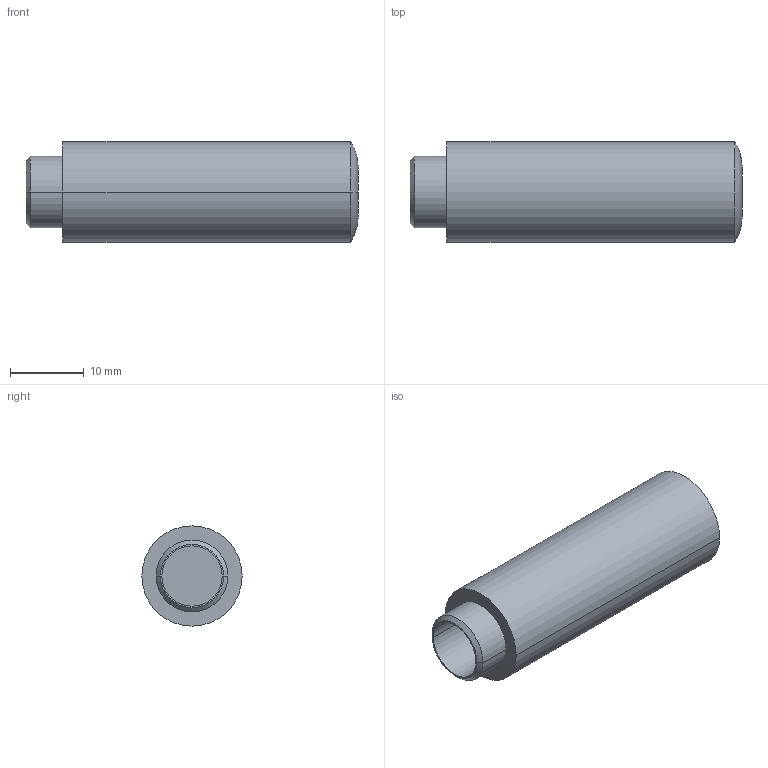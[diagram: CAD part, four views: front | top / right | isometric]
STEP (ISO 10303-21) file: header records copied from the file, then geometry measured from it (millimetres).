
FILE_DESCRIPTION((''),'2;1');
FILE_NAME('R412007593','2015-04-27T',('mla1hc'),(''),'PRO/ENGINEER BY PARAMETRIC TECHNOLOGY CORPORATION, 2011490','PRO/ENGINEER BY PARAMETRIC TECHNOLOGY CORPORATION, 2011490','');
FILE_SCHEMA(('AUTOMOTIVE_DESIGN_CC2 { 1 2 10303 214 -1 1 5 2 }'));
Length unit declared in the file: millimetre
Products named in the file (1): R412007593
Bounding box: 45 x 13.6 x 13.6 mm (x, y, z)
Volume: 3886.4 mm3; surface area: 3209.8 mm2
Topology: 1 solids, 1 shells, 14 faces, 26 edges, 16 vertices
Faces by surface type: cylinder 6, plane 4, bspline 2, cone 2
Entity records: 411 total; most frequent: CARTESIAN_POINT 110, DIRECTION 68, ORIENTED_EDGE 52, AXIS2_PLACEMENT_3D 30, EDGE_CURVE 26, CIRCLE 18, VERTEX_POINT 16, EDGE_LOOP 16
